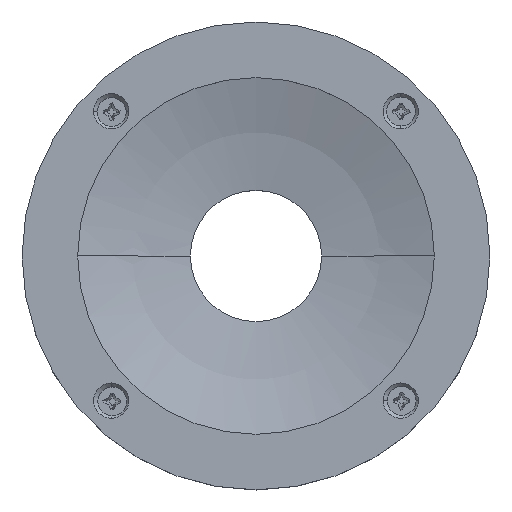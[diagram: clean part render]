
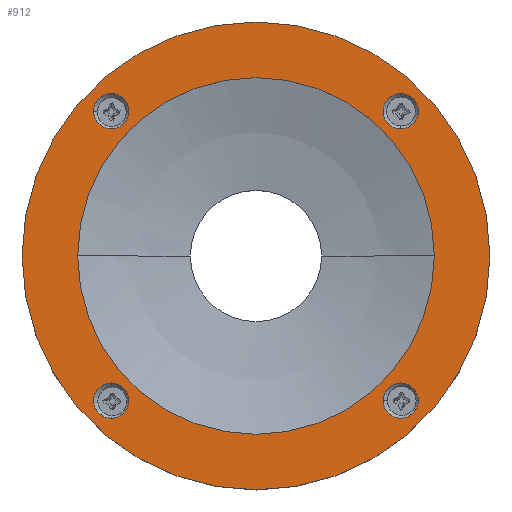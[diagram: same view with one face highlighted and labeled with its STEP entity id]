
A CAD part, top view. The second image highlights one B-rep face of the part: STEP entity #912.
In plain terms, the highlighted planar face has unit normal (0, 0, 1).
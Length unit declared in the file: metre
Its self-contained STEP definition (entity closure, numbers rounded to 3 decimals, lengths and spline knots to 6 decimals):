
#912=ADVANCED_FACE('3:3896',(#2197,#2198,#2199,#2200,#2201,#2202),#2203,.F.);
#2197=FACE_OUTER_BOUND('',#3387,.T.);
#2198=FACE_BOUND('',#3388,.T.);
#2199=FACE_BOUND('',#3389,.T.);
#2200=FACE_BOUND('',#3390,.T.);
#2201=FACE_BOUND('',#3391,.T.);
#2202=FACE_BOUND('',#3392,.T.);
#2203=PLANE('',#3393);
#3387=EDGE_LOOP('',(#5930,#5931));
#3388=EDGE_LOOP('',(#5932,#5933));
#3389=EDGE_LOOP('',(#5934,#5935));
#3390=EDGE_LOOP('',(#5936,#5937));
#3391=EDGE_LOOP('',(#5938,#5939));
#3392=EDGE_LOOP('',(#5940,#5941));
#3393=AXIS2_PLACEMENT_3D('',#5942,#5943,#5944);
#5930=ORIENTED_EDGE('',*,*,#9238,.F.);
#5931=ORIENTED_EDGE('',*,*,#8657,.F.);
#5932=ORIENTED_EDGE('',*,*,#9009,.T.);
#5933=ORIENTED_EDGE('',*,*,#9213,.T.);
#5934=ORIENTED_EDGE('',*,*,#9062,.T.);
#5935=ORIENTED_EDGE('',*,*,#9122,.T.);
#5936=ORIENTED_EDGE('',*,*,#9026,.T.);
#5937=ORIENTED_EDGE('',*,*,#9171,.T.);
#5938=ORIENTED_EDGE('',*,*,#9017,.T.);
#5939=ORIENTED_EDGE('',*,*,#9212,.T.);
#5940=ORIENTED_EDGE('',*,*,#9211,.F.);
#5941=ORIENTED_EDGE('',*,*,#9022,.F.);
#5942=CARTESIAN_POINT('',(-0.000001,0.000009,0.0135));
#5943=DIRECTION('',(0.0,0.0,-1.0));
#5944=DIRECTION('',(0.0,-1.0,0.0));
#8657=EDGE_CURVE('3:4967',#10141,#10137,#10143,.F.);
#9009=EDGE_CURVE('3:4865',#10803,#10800,#10804,.T.);
#9017=EDGE_CURVE('3:4853',#10819,#10816,#10820,.T.);
#9022=EDGE_CURVE('3:4847',#10826,#10829,#10830,.T.);
#9026=EDGE_CURVE('3:4724',#10837,#10834,#10838,.T.);
#9062=EDGE_CURVE('3:4859',#10900,#10897,#10901,.T.);
#9122=EDGE_CURVE('3:4859',#10897,#10900,#10983,.T.);
#9171=EDGE_CURVE('3:4724',#10834,#10837,#11057,.T.);
#9211=EDGE_CURVE('3:4847',#10829,#10826,#11105,.T.);
#9212=EDGE_CURVE('3:4853',#10816,#10819,#11106,.T.);
#9213=EDGE_CURVE('3:4865',#10800,#10803,#11107,.T.);
#9238=EDGE_CURVE('3:4967',#10137,#10141,#11140,.F.);
#10137=VERTEX_POINT('',#11906);
#10141=VERTEX_POINT('',#11911);
#10143=CIRCLE('',#11914,0.0446);
#10800=VERTEX_POINT('',#13281);
#10803=VERTEX_POINT('',#13285);
#10804=CIRCLE('',#13286,0.00336);
#10816=VERTEX_POINT('',#13347);
#10819=VERTEX_POINT('',#13351);
#10820=CIRCLE('',#13352,0.00336);
#10826=VERTEX_POINT('',#13371);
#10829=VERTEX_POINT('',#13375);
#10830=CIRCLE('',#13376,0.034);
#10834=VERTEX_POINT('',#13381);
#10837=VERTEX_POINT('',#13385);
#10838=CIRCLE('',#13386,0.00336);
#10897=VERTEX_POINT('',#13509);
#10900=VERTEX_POINT('',#13513);
#10901=CIRCLE('',#13514,0.00336);
#10983=CIRCLE('',#13733,0.00336);
#11057=CIRCLE('',#13867,0.00336);
#11105=CIRCLE('',#13923,0.034);
#11106=CIRCLE('',#13924,0.00336);
#11107=CIRCLE('',#13925,0.00336);
#11140=CIRCLE('',#13966,0.0446);
#11906=CARTESIAN_POINT('',(0.044599,0.000009,0.0135));
#11911=CARTESIAN_POINT('',(-0.044601,0.000009,0.0135));
#11914=AXIS2_PLACEMENT_3D('',#15047,#15048,#15049);
#13281=CARTESIAN_POINT('',(-0.030938,0.027586,0.0135));
#13285=CARTESIAN_POINT('',(-0.024218,0.027586,0.0135));
#13286=AXIS2_PLACEMENT_3D('',#15753,#15754,#15755);
#13347=CARTESIAN_POINT('',(0.027577,0.030946,0.0135));
#13351=CARTESIAN_POINT('',(0.027577,0.024226,0.0135));
#13352=AXIS2_PLACEMENT_3D('',#15761,#15762,#15763);
#13371=CARTESIAN_POINT('',(-0.034001,0.000009,0.0135));
#13375=CARTESIAN_POINT('',(0.033999,0.000009,0.0135));
#13376=AXIS2_PLACEMENT_3D('',#15769,#15770,#15771);
#13381=CARTESIAN_POINT('',(0.030937,-0.027568,0.0135));
#13385=CARTESIAN_POINT('',(0.024217,-0.027568,0.0135));
#13386=AXIS2_PLACEMENT_3D('',#15777,#15778,#15779);
#13509=CARTESIAN_POINT('',(-0.027578,-0.030928,0.0135));
#13513=CARTESIAN_POINT('',(-0.027578,-0.024208,0.0135));
#13514=AXIS2_PLACEMENT_3D('',#15848,#15849,#15850);
#13733=AXIS2_PLACEMENT_3D('',#15955,#15956,#15957);
#13867=AXIS2_PLACEMENT_3D('',#16024,#16025,#16026);
#13923=AXIS2_PLACEMENT_3D('',#16128,#16129,#16130);
#13924=AXIS2_PLACEMENT_3D('',#16131,#16132,#16133);
#13925=AXIS2_PLACEMENT_3D('',#16134,#16135,#16136);
#13966=AXIS2_PLACEMENT_3D('',#16193,#16194,#16195);
#15047=CARTESIAN_POINT('',(-0.000001,0.000009,0.0135));
#15048=DIRECTION('',(0.0,0.0,1.0));
#15049=DIRECTION('',(-1.0,0.0,0.0));
#15753=CARTESIAN_POINT('',(-0.027578,0.027586,0.0135));
#15754=DIRECTION('',(-0.0,0.0,-1.0));
#15755=DIRECTION('',(-1.0,0.,0.0));
#15761=CARTESIAN_POINT('',(0.027577,0.027586,0.0135));
#15762=DIRECTION('',(0.0,0.0,-1.0));
#15763=DIRECTION('',(0.,1.0,0.0));
#15769=CARTESIAN_POINT('',(-0.000001,0.000009,0.0135));
#15770=DIRECTION('',(0.0,0.0,1.0));
#15771=DIRECTION('',(-1.0,0.0,0.0));
#15777=CARTESIAN_POINT('',(0.027577,-0.027568,0.0135));
#15778=DIRECTION('',(0.0,0.0,-1.0));
#15779=DIRECTION('',(1.0,0.,0.0));
#15848=CARTESIAN_POINT('',(-0.027578,-0.027568,0.0135));
#15849=DIRECTION('',(0.0,0.0,-1.0));
#15850=DIRECTION('',(0.,-1.0,0.0));
#15955=CARTESIAN_POINT('',(-0.027578,-0.027568,0.0135));
#15956=DIRECTION('',(0.0,0.0,-1.0));
#15957=DIRECTION('',(0.,-1.0,0.0));
#16024=CARTESIAN_POINT('',(0.027577,-0.027568,0.0135));
#16025=DIRECTION('',(0.0,0.0,-1.0));
#16026=DIRECTION('',(1.0,0.,0.0));
#16128=CARTESIAN_POINT('',(-0.000001,0.000009,0.0135));
#16129=DIRECTION('',(0.0,0.0,1.0));
#16130=DIRECTION('',(-1.0,0.0,0.0));
#16131=CARTESIAN_POINT('',(0.027577,0.027586,0.0135));
#16132=DIRECTION('',(0.0,0.0,-1.0));
#16133=DIRECTION('',(0.,1.0,0.0));
#16134=CARTESIAN_POINT('',(-0.027578,0.027586,0.0135));
#16135=DIRECTION('',(-0.0,0.0,-1.0));
#16136=DIRECTION('',(-1.0,0.,0.0));
#16193=CARTESIAN_POINT('',(-0.000001,0.000009,0.0135));
#16194=DIRECTION('',(0.0,0.0,1.0));
#16195=DIRECTION('',(-1.0,0.0,0.0));
